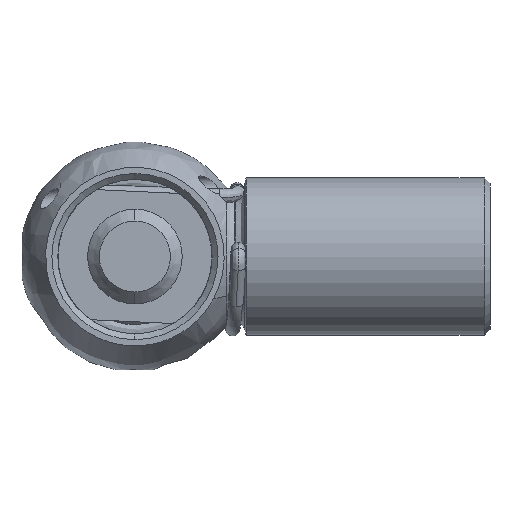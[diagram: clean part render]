
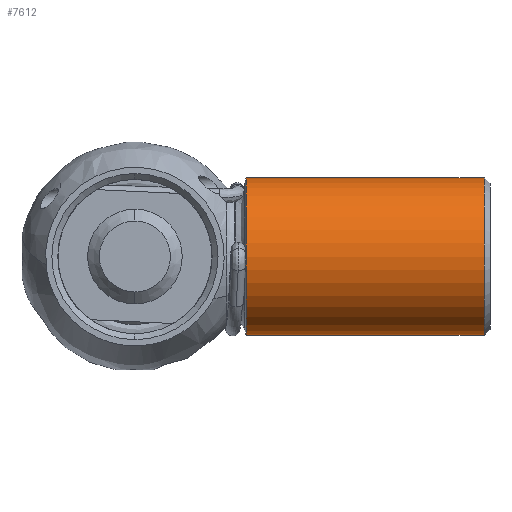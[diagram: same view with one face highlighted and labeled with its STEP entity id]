
A CAD part, front view. The second image highlights one B-rep face of the part: STEP entity #7612.
In plain terms, the highlighted cylindrical face has radius 6.65 mm (diameter 13.3 mm), a partial arc.
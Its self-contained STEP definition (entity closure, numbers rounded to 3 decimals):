
#34 = LINE ( 'NONE', #4797, #1769 ) ;
#362 = ORIENTED_EDGE ( 'NONE', *, *, #4288, .F. ) ;
#372 = EDGE_CURVE ( 'NONE', #7499, #3092, #4318, .T. ) ;
#396 = VERTEX_POINT ( 'NONE', #9269 ) ;
#410 = CARTESIAN_POINT ( 'NONE',  ( -0.505, 0., -0.004 ) ) ;
#540 = CARTESIAN_POINT ( 'NONE',  ( -7.87, 0., -0.004 ) ) ;
#833 = DIRECTION ( 'NONE',  ( -1., 0., 0. ) ) ;
#1273 = DIRECTION ( 'NONE',  ( 0., 0., 1. ) ) ;
#1622 = AXIS2_PLACEMENT_3D ( 'NONE', #2094, #833, #6643 ) ;
#1675 = EDGE_CURVE ( 'NONE', #396, #9385, #34, .T. ) ;
#1691 = CYLINDRICAL_SURFACE ( 'NONE', #5459, 6.65 ) ;
#1769 = VECTOR ( 'NONE', #5499, 1000. ) ;
#1840 = ORIENTED_EDGE ( 'NONE', *, *, #5467, .T. ) ;
#2094 = CARTESIAN_POINT ( 'NONE',  ( -20.597, 0., -0.004 ) ) ;
#2608 = ORIENTED_EDGE ( 'NONE', *, *, #372, .T. ) ;
#3063 = CARTESIAN_POINT ( 'NONE',  ( -20.597, 0., 6.646 ) ) ;
#3092 = VERTEX_POINT ( 'NONE', #3063 ) ;
#3375 = DIRECTION ( 'NONE',  ( -1., 0., 0. ) ) ;
#3478 = CIRCLE ( 'NONE', #6773, 6.65 ) ;
#4288 = EDGE_CURVE ( 'NONE', #9385, #3092, #8620, .T. ) ;
#4318 = LINE ( 'NONE', #4867, #7283 ) ;
#4341 = EDGE_LOOP ( 'NONE', ( #5418, #1840, #2608, #362 ) ) ;
#4797 = CARTESIAN_POINT ( 'NONE',  ( -7.87, 0., -6.654 ) ) ;
#4817 = DIRECTION ( 'NONE',  ( -1., 0., 0. ) ) ;
#4867 = CARTESIAN_POINT ( 'NONE',  ( -7.87, 0., 6.646 ) ) ;
#5333 = FACE_OUTER_BOUND ( 'NONE', #4341, .T. ) ;
#5418 = ORIENTED_EDGE ( 'NONE', *, *, #1675, .F. ) ;
#5459 = AXIS2_PLACEMENT_3D ( 'NONE', #540, #4817, #1273 ) ;
#5467 = EDGE_CURVE ( 'NONE', #396, #7499, #3478, .T. ) ;
#5499 = DIRECTION ( 'NONE',  ( -1., 0., 0. ) ) ;
#5877 = CARTESIAN_POINT ( 'NONE',  ( -20.597, 0., -6.654 ) ) ;
#6217 = DIRECTION ( 'NONE',  ( 0., 1., 0. ) ) ;
#6643 = DIRECTION ( 'NONE',  ( 0., 1., 0. ) ) ;
#6773 = AXIS2_PLACEMENT_3D ( 'NONE', #410, #3375, #6217 ) ;
#6926 = CARTESIAN_POINT ( 'NONE',  ( -0.505, 0., 6.646 ) ) ;
#7130 = DIRECTION ( 'NONE',  ( -1., 0., 0. ) ) ;
#7283 = VECTOR ( 'NONE', #7130, 1000. ) ;
#7499 = VERTEX_POINT ( 'NONE', #6926 ) ;
#7612 = ADVANCED_FACE ( 'NONE', ( #5333 ), #1691, .T. ) ;
#8620 = CIRCLE ( 'NONE', #1622, 6.65 ) ;
#9269 = CARTESIAN_POINT ( 'NONE',  ( -0.505, 0., -6.654 ) ) ;
#9385 = VERTEX_POINT ( 'NONE', #5877 ) ;
